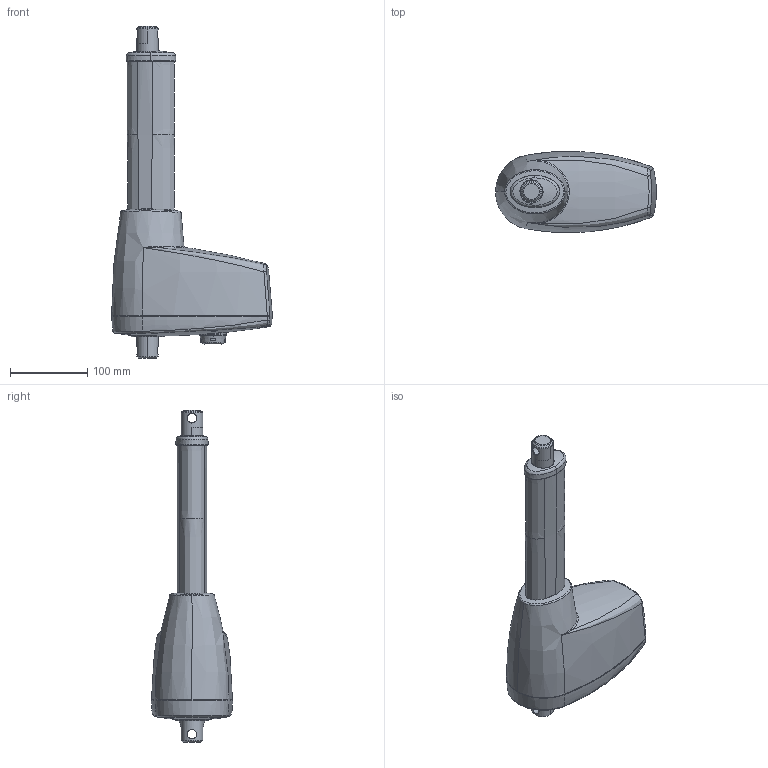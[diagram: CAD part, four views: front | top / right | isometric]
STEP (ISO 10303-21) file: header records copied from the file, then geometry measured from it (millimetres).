
FILE_DESCRIPTION((''),'2;1');
FILE_NAME('LA44_STANDARD_ASM','2008-09-05T',('ABL'),(''),'PRO/ENGINEER BY PARAMETRIC TECHNOLOGY CORPORATION, 2007310','PRO/ENGINEER BY PARAMETRIC TECHNOLOGY CORPORATION, 2007310','');
FILE_SCHEMA(('CONFIG_CONTROL_DESIGN'));
Length unit declared in the file: millimetre
Products named in the file (5): _LA44_STD_FIX; _LA44_STD_OUTERTUBE; _LA44_STD_BACKFIXTURE; _LA44_STD_INNERTUBE; LA44_STANDARD_ASM
Assembly tree (4 placements, depth 2):
  LA44_STANDARD_ASM
    _LA44_STD_FIX
    _LA44_STD_OUTERTUBE
    _LA44_STD_BACKFIXTURE
    _LA44_STD_INNERTUBE
Bounding box: 208.5 x 105.32 x 430.5 mm (x, y, z)
Volume: 2939849.8 mm3; surface area: 197785.1 mm2
Topology: 4 solids, 4 shells, 1409 faces, 3729 edges, 2328 vertices
Faces by surface type: bspline 460, cylinder 436, plane 227, torus 171, cone 86, sphere 19, extrusion 8, revolution 2
Entity records: 66301 total; most frequent: CARTESIAN_POINT 33870, ORIENTED_EDGE 7428, DIRECTION 6188, EDGE_CURVE 3714, AXIS2_PLACEMENT_3D 2633, VERTEX_POINT 2328, CIRCLE 1683, EDGE_LOOP 1456
